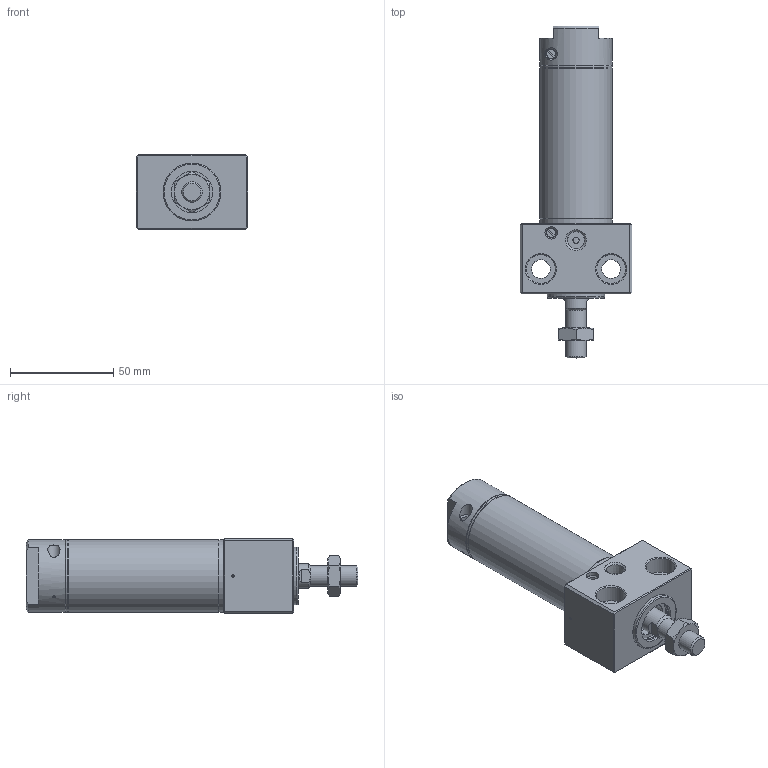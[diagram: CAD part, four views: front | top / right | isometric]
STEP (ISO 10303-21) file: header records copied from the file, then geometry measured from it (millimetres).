
FILE_DESCRIPTION((''),'2;1');
FILE_NAME('I:\3D電子目錄\氣缸\DBS\DBS\DBS30x25-C.stp','2007-10-08T08:42:56',('Administrator'),(''),'Autodesk Inventor 2008','Autodesk Inventor 2008','');
FILE_SCHEMA(('AUTOMOTIVE_DESIGN { 1 0 10303 214 1 1 1 1 }'));
Length unit declared in the file: millimetre
Products named in the file (1): DBS30x25-C
Bounding box: 54 x 160.6 x 36 mm (x, y, z)
Volume: 110722.2 mm3; surface area: 43398.6 mm2
Topology: 8 solids, 8 shells, 207 faces, 423 edges, 258 vertices
Faces by surface type: plane 93, cone 50, cylinder 48, bspline 13, torus 3
Full cylindrical faces by diameter (mm): 1.2 x1, 1.9 x2, 3 x3, 3.3 x2, 4.6 x2, 5 x2, 6 x2, 6.5 x1, 8 x1, 9 x1, 10 x2, 12 x1, 12.5 x1, 14 x1, 16 x1, 17 x2, 20 x2, 21 x3, 24 x2, 28 x3, 28.5 x2, 30 x1, 32.2 x6, 35 x4
Entity records: 5397 total; most frequent: CARTESIAN_POINT 1440, DIRECTION 828, ORIENTED_EDGE 642, AXIS2_PLACEMENT_3D 364, EDGE_LOOP 349, EDGE_CURVE 321, VERTEX_POINT 246, FACE_OUTER_BOUND 207
